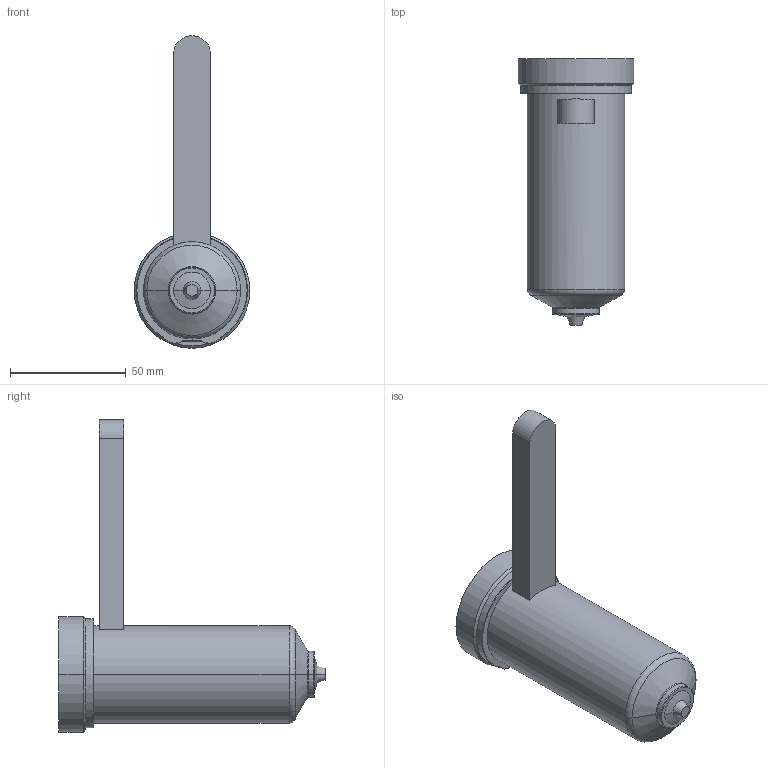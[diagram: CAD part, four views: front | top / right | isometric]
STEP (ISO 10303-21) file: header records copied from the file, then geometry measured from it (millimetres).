
FILE_DESCRIPTION((''),'2;1');
FILE_NAME('EO16_VG-BL_WR_100_COT','2024-02-19T13:20:55',('sundharh'),(''),'CREO PARAMETRIC BY PTC INC, 2023154','CREO PARAMETRIC BY PTC INC, 2023154','');
FILE_SCHEMA(('CONFIG_CONTROL_DESIGN'));
Length unit declared in the file: millimetre
Products named in the file (1): EO16_VG-BL_WR_100_COT
Bounding box: 50 x 115 x 135 mm (x, y, z)
Volume: 168980.3 mm3; surface area: 22510.2 mm2
Topology: 1 solids, 1 shells, 38 faces, 81 edges, 48 vertices
Faces by surface type: cylinder 11, plane 10, torus 9, cone 6, sphere 2
Entity records: 1151 total; most frequent: CARTESIAN_POINT 263, DIRECTION 199, ORIENTED_EDGE 162, AXIS2_PLACEMENT_3D 86, EDGE_CURVE 81, VERTEX_POINT 48, CIRCLE 48, EDGE_LOOP 41
